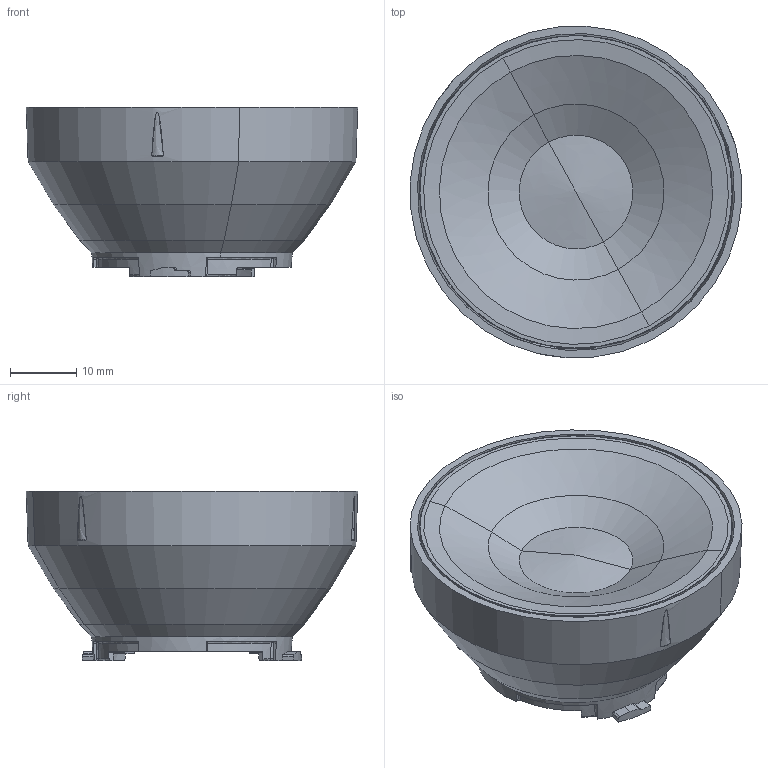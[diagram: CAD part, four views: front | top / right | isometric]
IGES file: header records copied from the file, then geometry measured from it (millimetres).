
Start section: START RECORD GO HERE.
Global section: file name: Carmen_Family_assy.igs; native system: DASSAULT SYSTEMES CATIA Version 5-6 Release 2018 - www.3ds.com; preprocessor: V5-6R2018_5.28.4.0.02-27-2019.20.00; author: jouko.kotitalo; organization: LEDIL; date: 20200505.132015; units: millimetre
Bounding box: 49.91 x 49.91 x 25.45 mm (x, y, z)
Surface area: 12644.2 mm2 (no closed solid volume)
Topology: 0 solids, 0 shells, 307 faces, 1591 edges, 1576 vertices
Faces by surface type: revolution 170, plane 95, bspline 42
